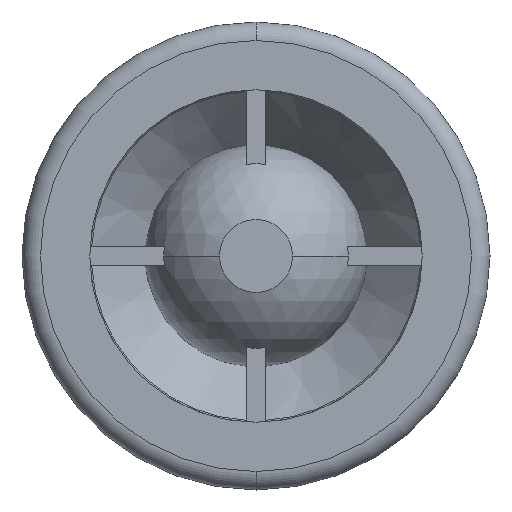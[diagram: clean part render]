
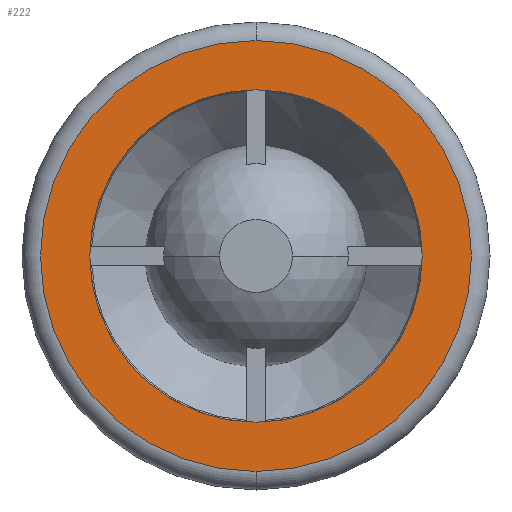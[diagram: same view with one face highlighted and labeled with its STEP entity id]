
A CAD part, front view. The second image highlights one B-rep face of the part: STEP entity #222.
In plain terms, the highlighted planar face has unit normal (0, -1, 0).
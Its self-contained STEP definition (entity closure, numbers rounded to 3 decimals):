
#116 = ORIENTED_EDGE ( 'NONE', *, *, #958, .T. ) ;
#118 = EDGE_LOOP ( 'NONE', ( #277, #241 ) ) ;
#134 = EDGE_CURVE ( 'NONE', #178, #168, #1004, .T. ) ;
#168 = VERTEX_POINT ( 'NONE', #1260 ) ;
#170 = EDGE_CURVE ( 'NONE', #168, #178, #1324, .T. ) ;
#178 = VERTEX_POINT ( 'NONE', #1307 ) ;
#222 = ADVANCED_FACE ( 'NONE', ( #1275, #1274 ), #1278, .F. ) ;
#241 = ORIENTED_EDGE ( 'NONE', *, *, #170, .F. ) ;
#277 = ORIENTED_EDGE ( 'NONE', *, *, #134, .F. ) ;
#343 = EDGE_LOOP ( 'NONE', ( #419, #116 ) ) ;
#418 = EDGE_CURVE ( 'NONE', #960, #959, #1655, .T. ) ;
#419 = ORIENTED_EDGE ( 'NONE', *, *, #418, .T. ) ;
#803 = DIRECTION ( 'NONE',  ( 0., 0., -1. ) ) ;
#958 = EDGE_CURVE ( 'NONE', #959, #960, #2479, .T. ) ;
#959 = VERTEX_POINT ( 'NONE', #2470 ) ;
#960 = VERTEX_POINT ( 'NONE', #2469 ) ;
#1002 = DIRECTION ( 'NONE',  ( 0., -1., 0. ) ) ;
#1003 = AXIS2_PLACEMENT_3D ( 'NONE', #1009, #1002, #803 ) ;
#1004 = CIRCLE ( 'NONE', #1003, 13.5 ) ;
#1009 = CARTESIAN_POINT ( 'NONE',  ( 0., 0., 0. ) ) ;
#1259 = CARTESIAN_POINT ( 'NONE',  ( 0., 0., 0. ) ) ;
#1260 = CARTESIAN_POINT ( 'NONE',  ( 0., 0., 13.5 ) ) ;
#1269 = DIRECTION ( 'NONE',  ( 0., 0., 1. ) ) ;
#1270 = DIRECTION ( 'NONE',  ( 0., 1., 0. ) ) ;
#1272 = CARTESIAN_POINT ( 'NONE',  ( -13.5, 0., 0. ) ) ;
#1273 = AXIS2_PLACEMENT_3D ( 'NONE', #1272, #1270, #1269 ) ;
#1274 = FACE_BOUND ( 'NONE', #118, .T. ) ;
#1275 = FACE_OUTER_BOUND ( 'NONE', #343, .T. ) ;
#1278 = PLANE ( 'NONE',  #1273 ) ;
#1307 = CARTESIAN_POINT ( 'NONE',  ( 0., 0., -13.5 ) ) ;
#1321 = DIRECTION ( 'NONE',  ( 0., 0., -1. ) ) ;
#1322 = DIRECTION ( 'NONE',  ( 0., -1., 0. ) ) ;
#1323 = AXIS2_PLACEMENT_3D ( 'NONE', #1259, #1322, #1321 ) ;
#1324 = CIRCLE ( 'NONE', #1323, 13.5 ) ;
#1652 = DIRECTION ( 'NONE',  ( 0., 0., 1. ) ) ;
#1653 = DIRECTION ( 'NONE',  ( 0., -1., 0. ) ) ;
#1654 = AXIS2_PLACEMENT_3D ( 'NONE', #1661, #1653, #1652 ) ;
#1655 = CIRCLE ( 'NONE', #1654, 17.5 ) ;
#1661 = CARTESIAN_POINT ( 'NONE',  ( 0., 0., 0. ) ) ;
#2469 = CARTESIAN_POINT ( 'NONE',  ( 0., 0., 17.5 ) ) ;
#2470 = CARTESIAN_POINT ( 'NONE',  ( 0., 0., -17.5 ) ) ;
#2471 = DIRECTION ( 'NONE',  ( 0., 0., 1. ) ) ;
#2472 = DIRECTION ( 'NONE',  ( 0., -1., 0. ) ) ;
#2473 = CARTESIAN_POINT ( 'NONE',  ( 0., 0., 0. ) ) ;
#2474 = AXIS2_PLACEMENT_3D ( 'NONE', #2473, #2472, #2471 ) ;
#2479 = CIRCLE ( 'NONE', #2474, 17.5 ) ;
